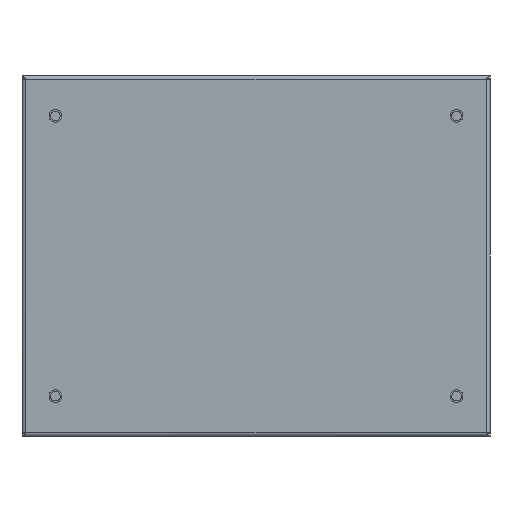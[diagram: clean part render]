
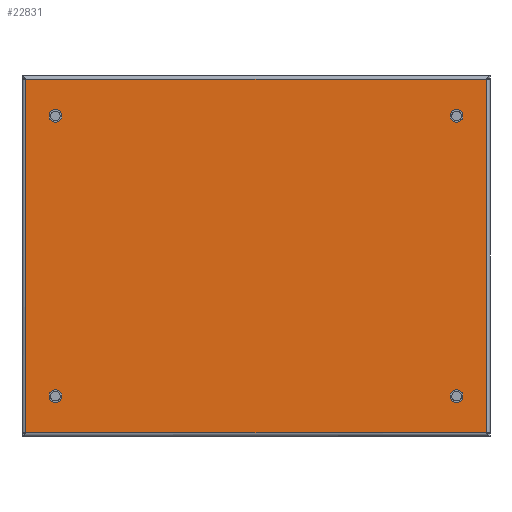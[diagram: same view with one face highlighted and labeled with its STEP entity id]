
A CAD part, front view. The second image highlights one B-rep face of the part: STEP entity #22831.
In plain terms, the highlighted planar face has unit normal (0, -1, 0) as drawn and (0, 0, 1) by its records, which use the part's own axes.
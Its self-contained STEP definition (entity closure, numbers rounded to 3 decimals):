
#22171=CARTESIAN_POINT(' ',(109.5,-76.5,0.));
#22176=DIRECTION(' ',(0.,0.,-1.));
#22181=DIRECTION(' ',(1.,0.,0.));
#22186=AXIS2_PLACEMENT_3D(' ',#22171,#22176,#22181);
#22191=CIRCLE('',#22186,3.5);
#22196=CARTESIAN_POINT(' ',(113.,-76.5,0.));
#22197=VERTEX_POINT(' ',#22196);
#22201=CARTESIAN_POINT(' ',(106.,-76.5,0.));
#22202=VERTEX_POINT(' ',#22201);
#22206=EDGE_CURVE(' ',#22197,#22202,#22191,.T.);
#22336=DIRECTION(' ',(-0.,-0.,1.));
#22341=CARTESIAN_POINT(' ',(125.65,-96.4,0.));
#22346=DIRECTION(' ',(0.,1.,0.));
#22351=AXIS2_PLACEMENT_3D(' ',#22341,#22336,#22346);
#22356=PLANE('NONE',#22351);
#22361=CARTESIAN_POINT(' ',(125.65,-96.4,0.));
#22366=DIRECTION(' ',(0.,1.,0.));
#22371=VECTOR(' ',#22366,1.);
#22376=LINE('',#22361,#22371);
#22381=CARTESIAN_POINT(' ',(125.65,-96.4,0.));
#22382=VERTEX_POINT(' ',#22381);
#22386=CARTESIAN_POINT(' ',(125.65,96.4,0.));
#22387=VERTEX_POINT(' ',#22386);
#22391=EDGE_CURVE(' ',#22382,#22387,#22376,.T.);
#22396=ORIENTED_EDGE(' ',*,*,#22391,.T.);
#22401=CARTESIAN_POINT(' ',(125.65,96.4,0.));
#22406=DIRECTION(' ',(-1.,0.,0.));
#22411=VECTOR(' ',#22406,1.);
#22416=LINE('',#22401,#22411);
#22421=CARTESIAN_POINT(' ',(-125.65,96.4,0.));
#22422=VERTEX_POINT(' ',#22421);
#22426=EDGE_CURVE(' ',#22387,#22422,#22416,.T.);
#22431=ORIENTED_EDGE(' ',*,*,#22426,.T.);
#22436=CARTESIAN_POINT(' ',(-125.65,96.4,0.));
#22441=DIRECTION(' ',(0.,-1.,0.));
#22446=VECTOR(' ',#22441,1.);
#22451=LINE('',#22436,#22446);
#22456=CARTESIAN_POINT(' ',(-125.65,-96.4,0.));
#22457=VERTEX_POINT(' ',#22456);
#22461=EDGE_CURVE(' ',#22422,#22457,#22451,.T.);
#22466=ORIENTED_EDGE(' ',*,*,#22461,.T.);
#22471=CARTESIAN_POINT(' ',(-125.65,-96.4,0.));
#22476=DIRECTION(' ',(1.,0.,0.));
#22481=VECTOR(' ',#22476,1.);
#22486=LINE('',#22471,#22481);
#22491=EDGE_CURVE(' ',#22457,#22382,#22486,.T.);
#22496=ORIENTED_EDGE(' ',*,*,#22491,.T.);
#22501=EDGE_LOOP(' ',(#22396,#22431,#22466,#22496));
#22506=FACE_OUTER_BOUND(' ',#22501,.T.);
#22511=CARTESIAN_POINT(' ',(109.5,-76.5,0.));
#22516=DIRECTION(' ',(0.,-0.,-1.));
#22521=DIRECTION(' ',(-1.,0.,0.));
#22526=AXIS2_PLACEMENT_3D(' ',#22511,#22516,#22521);
#22531=CIRCLE('',#22526,3.5);
#22536=EDGE_CURVE(' ',#22202,#22197,#22531,.T.);
#22541=ORIENTED_EDGE(' ',*,*,#22536,.T.);
#22546=ORIENTED_EDGE(' ',*,*,#22206,.T.);
#22551=EDGE_LOOP(' ',(#22541,#22546));
#22556=FACE_BOUND(' ',#22551,.T.);
#22561=CARTESIAN_POINT(' ',(-109.5,-76.5,0.));
#22566=DIRECTION(' ',(0.,-0.,-1.));
#22571=DIRECTION(' ',(-1.,0.,0.));
#22576=AXIS2_PLACEMENT_3D(' ',#22561,#22566,#22571);
#22581=CIRCLE('',#22576,3.5);
#22586=CARTESIAN_POINT(' ',(-113.,-76.5,0.));
#22587=VERTEX_POINT(' ',#22586);
#22591=CARTESIAN_POINT(' ',(-106.,-76.5,0.));
#22592=VERTEX_POINT(' ',#22591);
#22596=EDGE_CURVE(' ',#22587,#22592,#22581,.T.);
#22601=ORIENTED_EDGE(' ',*,*,#22596,.T.);
#22606=CARTESIAN_POINT(' ',(-109.5,-76.5,0.));
#22611=DIRECTION(' ',(0.,0.,-1.));
#22616=DIRECTION(' ',(1.,0.,0.));
#22621=AXIS2_PLACEMENT_3D(' ',#22606,#22611,#22616);
#22626=CIRCLE('',#22621,3.5);
#22631=EDGE_CURVE(' ',#22592,#22587,#22626,.T.);
#22636=ORIENTED_EDGE(' ',*,*,#22631,.T.);
#22641=EDGE_LOOP(' ',(#22601,#22636));
#22646=FACE_BOUND(' ',#22641,.T.);
#22651=CARTESIAN_POINT(' ',(109.5,76.5,0.));
#22656=DIRECTION(' ',(0.,-0.,-1.));
#22661=DIRECTION(' ',(-1.,0.,0.));
#22666=AXIS2_PLACEMENT_3D(' ',#22651,#22656,#22661);
#22671=CIRCLE('',#22666,3.5);
#22676=CARTESIAN_POINT(' ',(106.,76.5,0.));
#22677=VERTEX_POINT(' ',#22676);
#22681=CARTESIAN_POINT(' ',(113.,76.5,0.));
#22682=VERTEX_POINT(' ',#22681);
#22686=EDGE_CURVE(' ',#22677,#22682,#22671,.T.);
#22691=ORIENTED_EDGE(' ',*,*,#22686,.T.);
#22696=CARTESIAN_POINT(' ',(109.5,76.5,0.));
#22701=DIRECTION(' ',(0.,0.,-1.));
#22706=DIRECTION(' ',(1.,0.,0.));
#22711=AXIS2_PLACEMENT_3D(' ',#22696,#22701,#22706);
#22716=CIRCLE('',#22711,3.5);
#22721=EDGE_CURVE(' ',#22682,#22677,#22716,.T.);
#22726=ORIENTED_EDGE(' ',*,*,#22721,.T.);
#22731=EDGE_LOOP(' ',(#22691,#22726));
#22736=FACE_BOUND(' ',#22731,.T.);
#22741=CARTESIAN_POINT(' ',(-109.5,76.5,0.));
#22746=DIRECTION(' ',(0.,-0.,-1.));
#22751=DIRECTION(' ',(-1.,0.,0.));
#22756=AXIS2_PLACEMENT_3D(' ',#22741,#22746,#22751);
#22761=CIRCLE('',#22756,3.5);
#22766=CARTESIAN_POINT(' ',(-113.,76.5,0.));
#22767=VERTEX_POINT(' ',#22766);
#22771=CARTESIAN_POINT(' ',(-106.,76.5,0.));
#22772=VERTEX_POINT(' ',#22771);
#22776=EDGE_CURVE(' ',#22767,#22772,#22761,.T.);
#22781=ORIENTED_EDGE(' ',*,*,#22776,.T.);
#22786=CARTESIAN_POINT(' ',(-109.5,76.5,0.));
#22791=DIRECTION(' ',(0.,0.,-1.));
#22796=DIRECTION(' ',(1.,0.,0.));
#22801=AXIS2_PLACEMENT_3D(' ',#22786,#22791,#22796);
#22806=CIRCLE('',#22801,3.5);
#22811=EDGE_CURVE(' ',#22772,#22767,#22806,.T.);
#22816=ORIENTED_EDGE(' ',*,*,#22811,.T.);
#22821=EDGE_LOOP(' ',(#22781,#22816));
#22826=FACE_BOUND(' ',#22821,.T.);
#22831=ADVANCED_FACE('NONE',(#22506,#22556,#22646,#22736,#22826),#22356,.T.);
